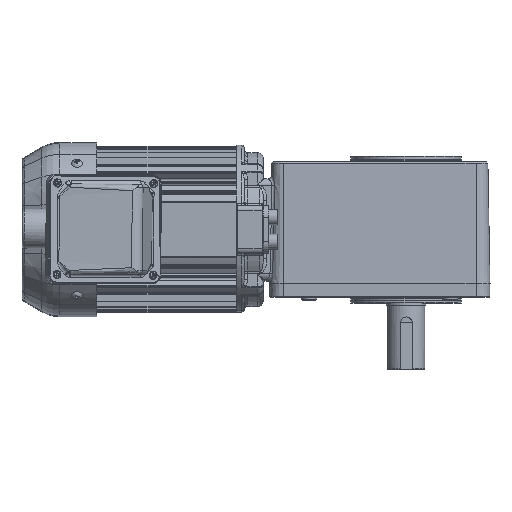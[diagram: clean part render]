
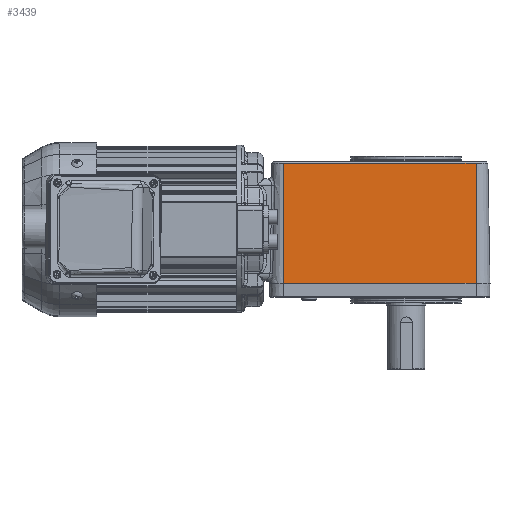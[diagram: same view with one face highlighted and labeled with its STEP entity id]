
A CAD part, top view. The second image highlights one B-rep face of the part: STEP entity #3439.
In plain terms, the highlighted planar face has unit normal (0, 0.018, 1).
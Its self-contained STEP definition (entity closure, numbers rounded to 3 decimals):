
#3439 = ADVANCED_FACE( '', ( #7900 ), #7901, .T. );
#7900 = FACE_OUTER_BOUND( '', #18018, .T. );
#7901 = PLANE( '', #18019 );
#18018 = EDGE_LOOP( '', ( #34439, #34440, #34441, #34442 ) );
#18019 = AXIS2_PLACEMENT_3D( '', #34443, #34444, #34445 );
#34439 = ORIENTED_EDGE( '', *, *, #45496, .F. );
#34440 = ORIENTED_EDGE( '', *, *, #42697, .T. );
#34441 = ORIENTED_EDGE( '', *, *, #45497, .T. );
#34442 = ORIENTED_EDGE( '', *, *, #45498, .F. );
#34443 = CARTESIAN_POINT( '', ( 139.025, -122.83, 38.495 ) );
#34444 = DIRECTION( '', ( 0., 0.017, 1. ) );
#34445 = DIRECTION( '', ( 0., -1., 0.017 ) );
#42697 = EDGE_CURVE( '', #49046, #49051, #49053, .T. );
#45496 = EDGE_CURVE( '', #49046, #53366, #53367, .T. );
#45497 = EDGE_CURVE( '', #49051, #53368, #53369, .T. );
#45498 = EDGE_CURVE( '', #53366, #53368, #53370, .T. );
#49046 = VERTEX_POINT( '', #58961 );
#49051 = VERTEX_POINT( '', #58968 );
#49053 = LINE( '', #58971, #58972 );
#53366 = VERTEX_POINT( '', #68541 );
#53367 = LINE( '', #68542, #68543 );
#53368 = VERTEX_POINT( '', #68544 );
#53369 = LINE( '', #68545, #68546 );
#53370 = LINE( '', #68547, #68548 );
#58961 = CARTESIAN_POINT( '', ( 221.525, -19.83, 36.697 ) );
#58968 = CARTESIAN_POINT( '', ( 56.525, -19.83, 36.697 ) );
#58971 = CARTESIAN_POINT( '', ( 139.025, -19.83, 36.697 ) );
#58972 = VECTOR( '', #74763, 1000. );
#68541 = CARTESIAN_POINT( '', ( 221.525, -122.83, 38.495 ) );
#68542 = CARTESIAN_POINT( '', ( 221.525, -122.83, 38.495 ) );
#68543 = VECTOR( '', #78740, 1000. );
#68544 = CARTESIAN_POINT( '', ( 56.525, -122.83, 38.495 ) );
#68545 = CARTESIAN_POINT( '', ( 56.525, -122.83, 38.495 ) );
#68546 = VECTOR( '', #78741, 1000. );
#68547 = CARTESIAN_POINT( '', ( 56.525, -122.83, 38.495 ) );
#68548 = VECTOR( '', #78742, 1000. );
#74763 = DIRECTION( '', ( -1., 0., 0. ) );
#78740 = DIRECTION( '', ( 0., -1., 0.017 ) );
#78741 = DIRECTION( '', ( 0., -1., 0.017 ) );
#78742 = DIRECTION( '', ( -1., 0., 0. ) );
